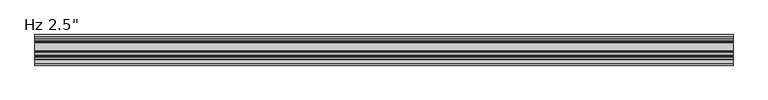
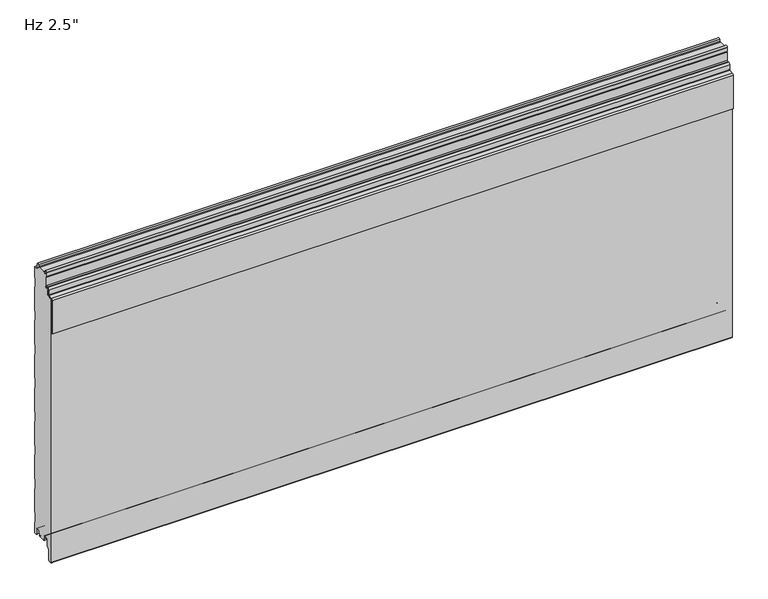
"""IFC4 building model written with IfcOpenShell, lengths in millimetres: plate geometry."""

from ifc_helpers import new_model, si_unit, frame, origin, place, context, project, spatial, polyline, circle_curve, source, transform, mapped, element, save
from ifc_brep_helpers import plane_surface, cylinder_surface, revolved_surface, advanced_brep


def plate_de5ff71d(model_context):
    return source(origin(), model_context, "Body", "AdvancedBrep", [
        advanced_brep(
        [(730.0, -42.4008679, 583.4464086), (730.0, -42.4008679, 602.1916086), (730.0, -43.9248679, 602.1916086), (730.0, -43.9248679, 583.4464086), (730.0, -45.4488679, 581.9224086), (730.0, -48.5476679, 581.9224086), (730.0, -52.0020679, 578.4680086), (730.0, -52.0020679, 567.2554512), (730.0, -52.6976552, 566.4963509), (730.0, -62.2416507, 565.3015233), (730.0, -65.024, 562.2651218), (730.0, -65.0360323, 486.6978086), (730.0, -63.5, 486.6978086), (730.0, -63.5, 562.2651218), (730.0, -62.1088254, 563.7833225), (730.0, -52.5648299, 564.9781501), (730.0, -50.4780679, 567.2554512), (730.0, -50.4780679, 578.4680086), (730.0, -48.5476679, 580.3984086), (730.0, -45.4488679, 580.3984086), (-730.0, -42.4008679, 583.4464086), (-730.0, -45.4488679, 580.3984086), (-730.0, -48.5476679, 580.3984086), (-730.0, -50.4780679, 578.4680086), (-730.0, -50.4780679, 567.2554512), (-730.0, -52.5648299, 564.9781501), (-730.0, -62.1088254, 563.7833225), (-730.0, -63.5, 562.2651218), (-730.0, -63.5, 486.6978086), (-730.0, -65.0360323, 486.6978086), (-730.0, -65.0360323, 562.2651218), (-730.0, -62.2416507, 565.3015233), (-730.0, -52.6976552, 566.4963509), (-730.0, -52.0020679, 567.2554512), (-730.0, -52.0020679, 578.4680086), (-730.0, -48.5476679, 581.9224086), (-730.0, -45.4488679, 581.9224086), (-730.0, -43.9248679, 583.4464086), (-730.0, -43.9248679, 602.1916086), (-730.0, -42.4008679, 602.1916086)],
        [
            (0, 1),
            (1, 2),
            (2, 3),
            (3, 4, circle_curve(frame((730.0, -45.4488679, 583.4464086), z_axis=(-1.0, 0.0, 0.0), x_axis=(0.0, 1.0, 0.0)), 1.524)),
            (4, 5),
            (5, 6, circle_curve(frame((730.0, -48.5476679, 578.4680086), z_axis=(1.0, 0.0, 0.0), x_axis=(0.0, 1.0, 0.0)), 3.4544)),
            (6, 7),
            (7, 8, circle_curve(frame((730.0, -52.7640679, 567.2554512), z_axis=(-1.0, 0.0, 0.0), x_axis=(0.0, 1.0, 0.0)), 0.762)),
            (8, 9),
            (9, 10, circle_curve(frame((730.0, -61.976, 562.2651218), z_axis=(1.0, 0.0, 0.0), x_axis=(0.0, 1.0, 0.0)), 3.048)),
            (10, 11),
            (11, 12),
            (12, 13),
            (13, 14, circle_curve(frame((730.0, -61.976, 562.2651218), z_axis=(-1.0, 0.0, 0.0), x_axis=(0.0, 1.0, 0.0)), 1.524)),
            (14, 15),
            (15, 16, circle_curve(frame((730.0, -52.7640679, 567.2554512), z_axis=(1.0, 0.0, 0.0), x_axis=(0.0, 1.0, 0.0)), 2.286)),
            (16, 17),
            (17, 18, circle_curve(frame((730.0, -48.5476679, 578.4680086), z_axis=(-1.0, 0.0, 0.0), x_axis=(0.0, 1.0, 0.0)), 1.9304)),
            (18, 19),
            (19, 0, circle_curve(frame((730.0, -45.4488679, 583.4464086), z_axis=(1.0, 0.0, 0.0), x_axis=(0.0, 1.0, 0.0)), 3.048)),
            (20, 21, circle_curve(frame((-730.0, -45.4488679, 583.4464086), z_axis=(-1.0, 0.0, 0.0), x_axis=(0.0, 1.0, 0.0)), 3.048)),
            (21, 22),
            (22, 23, circle_curve(frame((-730.0, -48.5476679, 578.4680086), z_axis=(1.0, 0.0, 0.0), x_axis=(0.0, 1.0, 0.0)), 1.9304)),
            (23, 24),
            (24, 25, circle_curve(frame((-730.0, -52.7640679, 567.2554512), z_axis=(-1.0, 0.0, 0.0), x_axis=(0.0, 1.0, 0.0)), 2.286)),
            (25, 26),
            (26, 27, circle_curve(frame((-730.0, -61.976, 562.2651218), z_axis=(1.0, 0.0, 0.0), x_axis=(0.0, 1.0, 0.0)), 1.524)),
            (27, 28),
            (28, 29),
            (29, 30),
            (30, 31, circle_curve(frame((-730.0, -61.976, 562.2651218), z_axis=(-1.0, 0.0, 0.0), x_axis=(0.0, 1.0, 0.0)), 3.048)),
            (31, 32),
            (32, 33, circle_curve(frame((-730.0, -52.7640679, 567.2554512), z_axis=(1.0, 0.0, 0.0), x_axis=(0.0, 1.0, 0.0)), 0.762)),
            (33, 34),
            (34, 35, circle_curve(frame((-730.0, -48.5476679, 578.4680086), z_axis=(-1.0, 0.0, 0.0), x_axis=(0.0, 1.0, 0.0)), 3.4544)),
            (35, 36),
            (36, 37, circle_curve(frame((-730.0, -45.4488679, 583.4464086), z_axis=(1.0, 0.0, 0.0), x_axis=(0.0, 1.0, 0.0)), 1.524)),
            (37, 38),
            (38, 39),
            (39, 20),
            (2, 38),
            (37, 3),
            (15, 25),
            (24, 16),
            (7, 33),
            (32, 8),
            (5, 35),
            (34, 6),
            (1, 39),
            (36, 4),
            (9, 31),
            (30, 10),
            (13, 27),
            (26, 14),
            (0, 20),
            (12, 28),
            (29, 11),
            (23, 17),
            (18, 22),
            (21, 19),
        ],
        [
            plane_surface(frame((730.0, -63.5, 602.1916086), z_axis=(1.0, 0.0, 0.0), x_axis=(0.0, 0.0, -1.0))),
            plane_surface(frame((-730.0, -63.5, 602.1916086), z_axis=(-1.0, 0.0, 0.0), x_axis=(0.0, 0.0, -1.0))),
            plane_surface(frame((730.0, -43.9248679, 583.4464086), z_axis=(0.0, -1.0, 0.0), x_axis=(-1.0, 0.0, 0.0))),
            cylinder_surface(frame((730.0, -52.7640679, 567.2554512), z_axis=(1.0, 0.0, 0.0), x_axis=(0.0, 1.0, 0.0)), 2.286),
            revolved_surface(polyline([(-730.0, -52.0020679, 567.2554512), (730.0, -52.0020679, 567.2554512)]), (730.0, -52.7640679, 567.2554512), (-1.0, 0.0, 0.0)),
            cylinder_surface(frame((730.0, -48.5476679, 578.4680086), z_axis=(1.0, 0.0, 0.0), x_axis=(0.0, 1.0, 0.0)), 3.4544),
            plane_surface(frame((730.0, -43.9248679, 602.1916086), z_axis=(0.0, 0.0, 1.0), x_axis=(-1.0, 0.0, 0.0))),
            revolved_surface(polyline([(-730.0, -43.9248679, 583.4464086), (730.0, -43.9248679, 583.4464086)]), (730.0, -45.4488679, 583.4464086), (-1.0, 0.0, 0.0)),
            cylinder_surface(frame((730.0, -61.976, 562.2651218), z_axis=(1.0, 0.0, 0.0), x_axis=(0.0, 1.0, 0.0)), 3.048),
            revolved_surface(polyline([(-730.0, -60.452, 562.2651218), (730.0, -60.452, 562.2651218)]), (730.0, -61.976, 562.2651218), (-1.0, 0.0, 0.0)),
            plane_surface(frame((730.0, -42.4008679, 602.1916086), z_axis=(0.0, 1.0, 0.0), x_axis=(-1.0, 0.0, 0.0))),
            plane_surface(frame((730.0, -52.5648299, 564.9781501), z_axis=(0.0, 0.12422187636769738, -0.9922544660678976), x_axis=(-1.0, 0.0, 0.0))),
            plane_surface(frame((730.0, -63.5, 562.2651218), z_axis=(0.0, 1.0, 0.0), x_axis=(-1.0, 0.0, 0.0))),
            plane_surface(frame((730.0, -62.2416507, 565.3015233), z_axis=(0.0, -0.12422187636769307, 0.9922544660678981), x_axis=(-1.0, 0.0, 0.0))),
            plane_surface(frame((730.0, -48.5476679, 581.9224086), z_axis=(0.0, 0.0, 1.0), x_axis=(-1.0, 0.0, 0.0))),
            plane_surface(frame((730.0, -65.0360323, 486.6978086), z_axis=(0.0, -1.0, 0.0), x_axis=(-1.0, 0.0, 0.0))),
            plane_surface(frame((730.0, -63.5, 486.6978086), z_axis=(0.0, 0.0, -1.0), x_axis=(-1.0, 0.0, 0.0))),
            plane_surface(frame((730.0, -50.4780679, 578.4680086), z_axis=(0.0, 1.0, 0.0), x_axis=(-1.0, 0.0, 0.0))),
            plane_surface(frame((730.0, -45.4488679, 580.3984086), z_axis=(0.0, 0.0, -1.0), x_axis=(-1.0, 0.0, 0.0))),
            plane_surface(frame((730.0, -52.0020679, 567.2554512), z_axis=(0.0, -1.0, 0.0), x_axis=(-1.0, 0.0, 0.0))),
            revolved_surface(polyline([(-730.0, -46.6172679, 578.4680086), (730.0, -46.6172679, 578.4680086)]), (730.0, -48.5476679, 578.4680086), (-1.0, 0.0, 0.0)),
            cylinder_surface(frame((730.0, -45.4488679, 583.4464086), z_axis=(1.0, 0.0, 0.0), x_axis=(0.0, 1.0, 0.0)), 3.048),
        ],
        [
            (0, [[1, 2, 3, 4, 5, 6, 7, 8, 9, 10, 11, 12, 13, 14, 15, 16, 17, 18, 19, 20]]),
            (1, [[21, 22, 23, 24, 25, 26, 27, 28, 29, 30, 31, 32, 33, 34, 35, 36, 37, 38, 39, 40]]),
            (2, [[41, -38, 42, -3]]),
            (3, [[43, -25, 44, -16]]),
            (4, [[45, -33, 46, -8]]),
            (5, [[47, -35, 48, -6]]),
            (6, [[49, -39, -41, -2]]),
            (7, [[-42, -37, 50, -4]]),
            (8, [[51, -31, 52, -10]]),
            (9, [[53, -27, 54, -14]]),
            (10, [[55, -40, -49, -1]]),
            (11, [[-54, -26, -43, -15]]),
            (12, [[56, -28, -53, -13]]),
            (13, [[-46, -32, -51, -9]]),
            (14, [[-50, -36, -47, -5]]),
            (15, [[-52, -30, 57, -11]]),
            (16, [[-57, -29, -56, -12]]),
            (17, [[-44, -24, 58, -17]]),
            (18, [[59, -22, 60, -19]]),
            (19, [[-48, -34, -45, -7]]),
            (20, [[-58, -23, -59, -18]]),
            (21, [[-60, -21, -55, -20]]),
        ],
    ),
        advanced_brep(
        [(-730.0, -35.170875, 1.0316999), (-730.0, -34.0014003, 2.2328239), (-730.0, -34.0014003, 5.9912173), (-730.0, -35.3998791, 5.9912173), (-730.0, -35.3998791, 8.6903283), (-730.0, -38.7498744, 12.0403236), (-730.0, -43.1498656, 12.0403236), (-730.0, -46.4998609, 8.6903283), (-730.0, -46.4998609, -3.1205608), (-730.0, -46.9977778, -4.3226385), (-730.0, -52.4998489, -9.8247096), (-730.0, -52.4998489, -31.9198392), (-730.0, -54.7184509, -34.5765709), (-730.0, -59.7002718, -35.0125699), (-730.0, -62.4945967, -32.4521176), (-730.0, -62.5, 561.115622), (-730.0, -60.7149259, 563.0669057), (-730.0, -52.2539491, 563.821161), (-730.0, -49.4906462, 566.9653654), (-730.0, -49.4906462, 577.0583308), (-730.0, -48.5392375, 578.0097394), (-730.0, -45.3955822, 578.0097394), (-730.0, -41.3961292, 582.0091924), (-730.0, -41.3961292, 603.1895515), (-730.0, -43.376977, 604.3334028), (-730.0, -43.0217167, 613.306811), (-730.0, -38.8211391, 613.3037148), (-730.0, -38.5767242, 609.2977997), (-730.0, -36.7819116, 607.5686884), (-730.0, -33.997365, 607.5686884), (-730.0, -33.997365, 608.5686884), (-730.0, -35.584865, 608.5686884), (-730.0, -34.5535534, 609.6), (-730.0, -18.6184525, 609.6), (-730.0, -17.5871409, 608.5686884), (-730.0, -19.0015288, 608.5686884), (-730.0, -19.0015288, 607.5686884), (-730.0, -16.6743462, 607.5686884), (-730.0, -14.9256429, 609.2513685), (-730.0, -14.7059822, 613.3921924), (-730.0, -10.4046442, 613.3931719), (-730.0, -9.9974365, 604.9016499), (-730.0, -6.0026007, 601.0787013), (-730.0, -1.0, 601.0787013), (-730.0, -1.0, 576.5794011), (-730.0, -2.2002307, 575.1937682), (-730.0, -2.2002307, 555.8186019), (-730.0, -1.0, 554.4329689), (-730.0, -1.0, 500.3795535), (-730.0, -2.2002307, 498.9939206), (-730.0, -2.2002307, 479.6187543), (-730.0, -1.0, 478.2331213), (-730.0, -1.0, 424.1797059), (-730.0, -2.2002307, 422.794073), (-730.0, -2.2002307, 403.4189067), (-730.0, -1.0, 402.0332737), (-730.0, -1.0, 347.9798583), (-730.0, -2.2002307, 346.5942254), (-730.0, -2.2002307, 327.2190591), (-730.0, -1.0, 325.8334261), (-730.0, -1.0, 271.7800107), (-730.0, -2.2002307, 270.3943778), (-730.0, -2.2002307, 251.0192115), (-730.0, -1.0, 249.6335785), (-730.0, -1.0, 195.5801631), (-730.0, -2.2002307, 194.1945302), (-730.0, -2.2002307, 174.8193639), (-730.0, -1.0, 173.4337309), (-730.0, -1.0, 119.3803155), (-730.0, -2.2002307, 117.9946826), (-730.0, -2.2002307, 98.6195163), (-730.0, -1.0, 97.2338833), (-730.0, -1.0, 43.1804679), (-730.0, -2.2002307, 41.794835), (-730.0, -2.2002307, 22.4196687), (-730.0, -0.9999916, 21.034026), (-730.0, -0.9999916, -3.4662506), (-730.0, -5.2315389, -3.4662506), (-730.0, -7.0015331, -1.6962564), (-730.0, -7.0015331, 8.7237222), (-730.0, -10.301529, 12.023718), (-730.0, -14.7015202, 12.023718), (-730.0, -18.0015159, 8.7237223), (-730.0, -18.0015159, 6.0315125), (-730.0, -19.0015105, 6.0315125), (-730.0, -19.0015105, 2.0313089), (-730.0, -18.0015192, 1.0313117), (-730.0, -19.0328308, 0.0), (-730.0, -34.1391751, 0.0), (730.0, -35.170875, 1.0316999), (730.0, -34.1391751, 0.0), (730.0, -19.0328308, 0.0), (730.0, -18.0015192, 1.0313117), (730.0, -19.0015105, 2.0313089), (730.0, -19.0015105, 6.0315125), (730.0, -18.0015159, 6.0315125), (730.0, -18.0015159, 8.7237223), (730.0, -14.7015202, 12.023718), (730.0, -10.301529, 12.023718), (730.0, -7.0015331, 8.7237222), (730.0, -7.0015331, -1.6962564), (730.0, -5.2315389, -3.4662506), (730.0, -0.9999916, -3.4662506), (730.0, -0.9999916, 21.034026), (730.0, -2.2002307, 22.4196687), (730.0, -2.2002307, 41.794835), (730.0, -1.0, 43.1804679), (730.0, -1.0, 97.2338833), (730.0, -2.2002307, 98.6195163), (730.0, -2.2002307, 117.9946826), (730.0, -1.0, 119.3803155), (730.0, -1.0, 173.4337309), (730.0, -2.2002307, 174.8193639), (730.0, -2.2002307, 194.1945302), (730.0, -1.0, 195.5801631), (730.0, -1.0, 249.6335785), (730.0, -2.2002307, 251.0192115), (730.0, -2.2002307, 270.3943778), (730.0, -1.0, 271.7800107), (730.0, -1.0, 325.8334261), (730.0, -2.2002307, 327.2190591), (730.0, -2.2002307, 346.5942254), (730.0, -1.0, 347.9798583), (730.0, -1.0, 402.0332737), (730.0, -2.2002307, 403.4189067), (730.0, -2.2002307, 422.794073), (730.0, -1.0, 424.1797059), (730.0, -1.0, 478.2331213), (730.0, -2.2002307, 479.6187543), (730.0, -2.2002307, 498.9939206), (730.0, -1.0, 500.3795535), (730.0, -1.0, 554.4329689), (730.0, -2.2002307, 555.8186019), (730.0, -2.2002307, 575.1937682), (730.0, -1.0, 576.5794011), (730.0, -1.0, 601.0787013), (730.0, -6.0026007, 601.0787013), (730.0, -9.9974365, 604.9016499), (730.0, -10.4046442, 613.3931719), (730.0, -14.7059822, 613.3921924), (730.0, -14.9256429, 609.2513685), (730.0, -16.6743462, 607.5686884), (730.0, -19.0015288, 607.5686884), (730.0, -19.0015288, 608.5686884), (730.0, -17.5871409, 608.5686884), (730.0, -18.6184525, 609.6), (730.0, -34.5535534, 609.6), (730.0, -35.584865, 608.5686884), (730.0, -33.997365, 608.5686884), (730.0, -33.997365, 607.5686884), (730.0, -36.7819116, 607.5686884), (730.0, -38.5767242, 609.2977997), (730.0, -38.8211391, 613.3037148), (730.0, -43.0217167, 613.306811), (730.0, -43.376977, 604.3334028), (730.0, -41.3961292, 603.1895515), (730.0, -41.3961292, 582.0091924), (730.0, -45.3955822, 578.0097394), (730.0, -48.5392375, 578.0097394), (730.0, -49.4906462, 577.0583308), (730.0, -49.4906462, 566.9653654), (730.0, -52.2539491, 563.821161), (730.0, -60.7149259, 563.0669057), (730.0, -62.5, 561.115622), (730.0, -62.5, -32.4521176), (730.0, -59.7002718, -35.0125699), (730.0, -54.7184509, -34.5765709), (730.0, -52.4998489, -31.9198392), (730.0, -52.4998489, -9.8247096), (730.0, -46.9977778, -4.3226385), (730.0, -46.4998609, -3.1205608), (730.0, -46.4998609, 8.6903283), (730.0, -43.1498656, 12.0403236), (730.0, -38.7498744, 12.0403236), (730.0, -35.3998791, 8.6903283), (730.0, -35.3998791, 5.9912173), (730.0, -34.0014003, 5.9912173), (730.0, -34.0014003, 2.2328239)],
        [
            (0, 1, circle_curve(frame((-730.0, -35.2013969, 2.2313092), z_axis=(1.0, 0.0, 0.0), x_axis=(0.0, 0.0, -1.0)), 1.1999976)),
            (1, 2),
            (2, 3),
            (3, 4),
            (4, 5, circle_curve(frame((-730.0, -38.7498744, 8.6903283), z_axis=(1.0, 0.0, 0.0), x_axis=(0.0, 0.0, -1.0)), 3.3499953)),
            (5, 6),
            (6, 7, circle_curve(frame((-730.0, -43.1498656, 8.6903283), z_axis=(1.0, 0.0, 0.0), x_axis=(0.0, 0.0, -1.0)), 3.3499953)),
            (7, 8),
            (8, 9, circle_curve(frame((-730.0, -48.1998555, -3.1205608), z_axis=(-1.0, 0.0, 0.0), x_axis=(0.0, 0.0, -1.0)), 1.6999946)),
            (9, 10),
            (10, 11),
            (11, 12, circle_curve(frame((-730.0, -55.1998415, -31.9198392), z_axis=(-1.0, 0.0, 0.0), x_axis=(0.0, 0.0, -1.0)), 2.6999926)),
            (12, 13),
            (13, 14, circle_curve(frame((-730.0, -59.9243575, -32.4521176), z_axis=(-1.0, 0.0, 0.0), x_axis=(0.0, 0.0, -1.0)), 2.5702393)),
            (14, 15),
            (15, 16, circle_curve(frame((-730.0, -60.5409784, 561.115622), z_axis=(-1.0, 0.0, 0.0), x_axis=(0.0, 0.0, -1.0)), 1.9590216)),
            (16, 17),
            (17, 18, circle_curve(frame((-730.0, -52.5180321, 566.8396267), z_axis=(1.0, 0.0, 0.0), x_axis=(0.0, 0.0, -1.0)), 3.0299959)),
            (18, 19),
            (19, 20, circle_curve(frame((-730.0, -48.5392375, 577.0583308), z_axis=(-1.0, 0.0, 0.0), x_axis=(0.0, 0.0, -1.0)), 0.9514087)),
            (20, 21),
            (21, 22, circle_curve(frame((-730.0, -45.3955822, 582.0091924), z_axis=(1.0, 0.0, 0.0), x_axis=(0.0, 0.0, -1.0)), 3.9994529)),
            (22, 23),
            (23, 24),
            (24, 25),
            (25, 26, circle_curve(frame((-730.0, -40.921488, 613.2236622), z_axis=(-1.0, 0.0, 0.0), x_axis=(0.0, 0.0, -1.0)), 2.1018739)),
            (26, 27),
            (27, 28, circle_curve(frame((-730.0, -36.7383506, 609.4099653), z_axis=(1.0, 0.0, 0.0), x_axis=(0.0, 0.0, -1.0)), 1.8417922)),
            (28, 29),
            (29, 30),
            (30, 31),
            (31, 32),
            (32, 33),
            (33, 34),
            (34, 35),
            (35, 36),
            (36, 37),
            (37, 38, circle_curve(frame((-730.0, -16.6743462, 609.3186869), z_axis=(1.0, 0.0, 0.0), x_axis=(0.0, 0.0, 1.0)), 1.7499985)),
            (38, 39),
            (39, 40, circle_curve(frame((-730.0, -12.5552871, 613.2781032), z_axis=(-1.0, 0.0, 0.0), x_axis=(0.0, 0.0, 1.0)), 2.153719)),
            (40, 41),
            (41, 42, circle_curve(frame((-730.0, -5.9867338, 605.0939817), z_axis=(1.0, 0.0, 0.0), x_axis=(0.0, 0.0, 1.0)), 4.0153117)),
            (42, 43),
            (43, 44),
            (44, 45),
            (45, 46),
            (46, 47),
            (47, 48),
            (48, 49),
            (49, 50),
            (50, 51),
            (51, 52),
            (52, 53),
            (53, 54),
            (54, 55),
            (55, 56),
            (56, 57),
            (57, 58),
            (58, 59),
            (59, 60),
            (60, 61),
            (61, 62),
            (62, 63),
            (63, 64),
            (64, 65),
            (65, 66),
            (66, 67),
            (67, 68),
            (68, 69),
            (69, 70),
            (70, 71),
            (71, 72),
            (72, 73),
            (73, 74),
            (74, 75),
            (75, 76),
            (76, 77),
            (77, 78, circle_curve(frame((-730.0, -5.2315389, -1.6962564), z_axis=(-1.0, 0.0, 0.0), x_axis=(0.0, 0.0, 1.0)), 1.7699942)),
            (78, 79),
            (79, 80, circle_curve(frame((-730.0, -10.301529, 8.7237222), z_axis=(1.0, 0.0, 0.0), x_axis=(0.0, 0.0, 1.0)), 3.2999959)),
            (80, 81),
            (81, 82, circle_curve(frame((-730.0, -14.7015202, 8.7237223), z_axis=(1.0, 0.0, 0.0), x_axis=(0.0, 0.0, 1.0)), 3.2999957)),
            (82, 83),
            (83, 84),
            (84, 85),
            (85, 86, circle_curve(frame((-730.0, -18.0015133, 2.0313089), z_axis=(1.0, 0.0, 0.0), x_axis=(0.0, 0.0, 1.0)), 0.9999972)),
            (86, 87),
            (87, 88),
            (88, 0),
            (89, 90),
            (90, 91),
            (91, 92),
            (92, 93, circle_curve(frame((730.0, -18.0015133, 2.0313089), z_axis=(-1.0, 0.0, 0.0), x_axis=(0.0, 0.0, 1.0)), 0.9999972)),
            (93, 94),
            (94, 95),
            (95, 96),
            (96, 97, circle_curve(frame((730.0, -14.7015202, 8.7237223), z_axis=(-1.0, 0.0, 0.0), x_axis=(0.0, 0.0, 1.0)), 3.2999957)),
            (97, 98),
            (98, 99, circle_curve(frame((730.0, -10.301529, 8.7237222), z_axis=(-1.0, 0.0, 0.0), x_axis=(0.0, 0.0, 1.0)), 3.2999959)),
            (99, 100),
            (100, 101, circle_curve(frame((730.0, -5.2315389, -1.6962564), z_axis=(1.0, 0.0, 0.0), x_axis=(0.0, 0.0, 1.0)), 1.7699942)),
            (101, 102),
            (102, 103),
            (103, 104),
            (104, 105),
            (105, 106),
            (106, 107),
            (107, 108),
            (108, 109),
            (109, 110),
            (110, 111),
            (111, 112),
            (112, 113),
            (113, 114),
            (114, 115),
            (115, 116),
            (116, 117),
            (117, 118),
            (118, 119),
            (119, 120),
            (120, 121),
            (121, 122),
            (122, 123),
            (123, 124),
            (124, 125),
            (125, 126),
            (126, 127),
            (127, 128),
            (128, 129),
            (129, 130),
            (130, 131),
            (131, 132),
            (132, 133),
            (133, 134),
            (134, 135),
            (135, 136),
            (136, 137, circle_curve(frame((730.0, -5.9867338, 605.0939817), z_axis=(-1.0, 0.0, 0.0), x_axis=(0.0, 0.0, 1.0)), 4.0153117)),
            (137, 138),
            (138, 139, circle_curve(frame((730.0, -12.5552871, 613.2781032), z_axis=(1.0, 0.0, 0.0), x_axis=(0.0, 0.0, 1.0)), 2.153719)),
            (139, 140),
            (140, 141, circle_curve(frame((730.0, -16.6743462, 609.3186869), z_axis=(-1.0, 0.0, 0.0), x_axis=(0.0, 0.0, 1.0)), 1.7499985)),
            (141, 142),
            (142, 143),
            (143, 144),
            (144, 145),
            (145, 146),
            (146, 147),
            (147, 148),
            (148, 149),
            (149, 150),
            (150, 151, circle_curve(frame((730.0, -36.7383506, 609.4099653), z_axis=(-1.0, 0.0, 0.0), x_axis=(0.0, 0.0, -1.0)), 1.8417922)),
            (151, 152),
            (152, 153, circle_curve(frame((730.0, -40.921488, 613.2236622), z_axis=(1.0, 0.0, 0.0), x_axis=(0.0, 0.0, -1.0)), 2.1018739)),
            (153, 154),
            (154, 155),
            (155, 156),
            (156, 157, circle_curve(frame((730.0, -45.3955822, 582.0091924), z_axis=(-1.0, 0.0, 0.0), x_axis=(0.0, 0.0, -1.0)), 3.9994529)),
            (157, 158),
            (158, 159, circle_curve(frame((730.0, -48.5392375, 577.0583308), z_axis=(1.0, 0.0, 0.0), x_axis=(0.0, 0.0, -1.0)), 0.9514087)),
            (159, 160),
            (160, 161, circle_curve(frame((730.0, -52.5180321, 566.8396267), z_axis=(-1.0, 0.0, 0.0), x_axis=(0.0, 0.0, -1.0)), 3.0299959)),
            (161, 162),
            (162, 163, circle_curve(frame((730.0, -60.5409784, 561.115622), z_axis=(1.0, 0.0, 0.0), x_axis=(0.0, 0.0, -1.0)), 1.9590216)),
            (163, 164),
            (164, 165, circle_curve(frame((730.0, -59.9243575, -32.4521176), z_axis=(1.0, 0.0, 0.0), x_axis=(0.0, 0.0, -1.0)), 2.5702393)),
            (165, 166),
            (166, 167, circle_curve(frame((730.0, -55.1998415, -31.9198392), z_axis=(1.0, 0.0, 0.0), x_axis=(0.0, 0.0, -1.0)), 2.6999926)),
            (167, 168),
            (168, 169),
            (169, 170, circle_curve(frame((730.0, -48.1998555, -3.1205608), z_axis=(1.0, 0.0, 0.0), x_axis=(0.0, 0.0, -1.0)), 1.6999946)),
            (170, 171),
            (171, 172, circle_curve(frame((730.0, -43.1498656, 8.6903283), z_axis=(-1.0, 0.0, 0.0), x_axis=(0.0, 0.0, -1.0)), 3.3499953)),
            (172, 173),
            (173, 174, circle_curve(frame((730.0, -38.7498744, 8.6903283), z_axis=(-1.0, 0.0, 0.0), x_axis=(0.0, 0.0, -1.0)), 3.3499953)),
            (174, 175),
            (175, 176),
            (176, 177),
            (177, 89, circle_curve(frame((730.0, -35.2013969, 2.2313092), z_axis=(-1.0, 0.0, 0.0), x_axis=(0.0, 0.0, -1.0)), 1.1999976)),
            (88, 90),
            (89, 0),
            (87, 91),
            (32, 146),
            (145, 33),
            (31, 147),
            (30, 148),
            (29, 149),
            (28, 150),
            (27, 151),
            (26, 152),
            (25, 153),
            (24, 154),
            (23, 155),
            (22, 156),
            (21, 157),
            (20, 158),
            (19, 159),
            (18, 160),
            (17, 161),
            (16, 162),
            (15, 163),
            (14, 164),
            (13, 165),
            (12, 166),
            (11, 167),
            (10, 168),
            (9, 169),
            (8, 170),
            (7, 171),
            (6, 172),
            (5, 173),
            (4, 174),
            (3, 175),
            (2, 176),
            (1, 177),
            (86, 92),
            (85, 93),
            (84, 94),
            (83, 95),
            (82, 96),
            (81, 97),
            (80, 98),
            (79, 99),
            (78, 100),
            (77, 101),
            (76, 102),
            (41, 137),
            (136, 42),
            (40, 138),
            (39, 139),
            (38, 140),
            (37, 141),
            (36, 142),
            (35, 143),
            (34, 144),
            (74, 104),
            (103, 75),
            (73, 105),
            (72, 106),
            (71, 107),
            (70, 108),
            (69, 109),
            (68, 110),
            (67, 111),
            (66, 112),
            (65, 113),
            (64, 114),
            (63, 115),
            (62, 116),
            (61, 117),
            (60, 118),
            (59, 119),
            (58, 120),
            (57, 121),
            (56, 122),
            (55, 123),
            (54, 124),
            (53, 125),
            (52, 126),
            (51, 127),
            (50, 128),
            (49, 129),
            (48, 130),
            (47, 131),
            (46, 132),
            (45, 133),
            (44, 134),
            (43, 135),
        ],
        [
            plane_surface(frame((-730.0, -62.5, 304.8), z_axis=(-1.0, 0.0, 0.0), x_axis=(0.0, -1.0, 0.0))),
            plane_surface(frame((730.0, -62.5, 304.8), z_axis=(1.0, 0.0, 0.0), x_axis=(0.0, -1.0, 0.0))),
            plane_surface(frame((-730.0, -35.170875, 1.0316999), z_axis=(0.0, -0.7071067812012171, -0.707106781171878), x_axis=(1.0, 0.0, 0.0))),
            plane_surface(frame((-730.0, -34.1391751, 0.0), z_axis=(0.0, 0.0, -1.0), x_axis=(1.0, 0.0, 0.0))),
            plane_surface(frame((-730.0, -33.1391751, 609.6), z_axis=(0.0, 0.0, 1.0), x_axis=(1.0, 0.0, 0.0))),
            plane_surface(frame((-730.0, -34.5535534, 609.6), z_axis=(0.0, -0.7071067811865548, 0.7071067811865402), x_axis=(1.0, 0.0, 0.0))),
            plane_surface(frame((-730.0, -35.584865, 608.5686884), z_axis=(0.0, 0.0, -1.0), x_axis=(1.0, 0.0, 0.0))),
            plane_surface(frame((-730.0, -33.997365, 608.5686884), z_axis=(0.0, -1.0, 0.0), x_axis=(1.0, 0.0, 0.0))),
            plane_surface(frame((-730.0, -33.997365, 607.5686884), z_axis=(0.0, 0.0, 1.0), x_axis=(1.0, 0.0, 0.0))),
            revolved_surface(polyline([(730.0, -36.7383506, 607.5681731), (-730.0, -36.7383506, 607.5681731)]), (-730.0, -36.7383506, 609.4099653), (1.0, 0.0, 0.0)),
            plane_surface(frame((-730.0, -38.5767242, 609.2977997), z_axis=(0.0, 0.9981438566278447, 0.06090025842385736), x_axis=(1.0, 0.0, 0.0))),
            cylinder_surface(frame((-730.0, -40.921488, 613.2236622), z_axis=(-1.0, 0.0, 0.0), x_axis=(0.0, 0.0, -1.0)), 2.1018739),
            plane_surface(frame((-730.0, -43.0217167, 613.306811), z_axis=(0.0, -0.9992172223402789, 0.03955935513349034), x_axis=(1.0, 0.0, 0.0))),
            plane_surface(frame((-730.0, -43.376977, 604.3334028), z_axis=(0.0, -0.5000682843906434, -0.865985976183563), x_axis=(1.0, 0.0, 0.0))),
            plane_surface(frame((-730.0, -41.3961292, 603.1895515), z_axis=(0.0, -1.0, 0.0), x_axis=(1.0, 0.0, 0.0))),
            revolved_surface(polyline([(730.0, -45.3955822, 578.0097394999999), (-730.0, -45.3955822, 578.0097394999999)]), (-730.0, -45.3955822, 582.0091924), (1.0, 0.0, 0.0)),
            plane_surface(frame((-730.0, -45.3955822, 578.0097394), z_axis=(0.0, 0.0, 1.0), x_axis=(1.0, 0.0, 0.0))),
            cylinder_surface(frame((-730.0, -48.5392375, 577.0583308), z_axis=(-1.0, 0.0, 0.0), x_axis=(0.0, 0.0, -1.0)), 0.9514087),
            plane_surface(frame((-730.0, -49.4906462, 577.0583308), z_axis=(0.0, -1.0, 0.0), x_axis=(1.0, 0.0, 0.0))),
            revolved_surface(polyline([(730.0, -52.5180321, 563.8096308), (-730.0, -52.5180321, 563.8096308)]), (-730.0, -52.5180321, 566.8396267), (1.0, 0.0, 0.0)),
            plane_surface(frame((-730.0, -52.2539491, 563.821161), z_axis=(0.0, -0.08879306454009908, 0.9960500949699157), x_axis=(1.0, 0.0, 0.0))),
            cylinder_surface(frame((-730.0, -60.5409784, 561.115622), z_axis=(-1.0, 0.0, 0.0), x_axis=(0.0, 0.0, -1.0)), 1.9590216),
            plane_surface(frame((-730.0, -62.5, 561.115622), z_axis=(0.0, -1.0, 0.0), x_axis=(1.0, 0.0, 0.0))),
            cylinder_surface(frame((-730.0, -59.9243575, -32.4521176), z_axis=(-1.0, 0.0, 0.0), x_axis=(0.0, 0.0, -1.0)), 2.5702393),
            plane_surface(frame((-730.0, -59.7002718, -35.0125699), z_axis=(0.0, 0.08718474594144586, -0.9961921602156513), x_axis=(1.0, 0.0, 0.0))),
            cylinder_surface(frame((-730.0, -55.1998415, -31.9198392), z_axis=(-1.0, 0.0, 0.0), x_axis=(0.0, 0.0, -1.0)), 2.6999926),
            plane_surface(frame((-730.0, -52.4998489, -31.9198392), z_axis=(0.0, 1.0, 0.0), x_axis=(1.0, 0.0, 0.0))),
            plane_surface(frame((-730.0, -52.4998489, -9.8247096), z_axis=(0.0, 0.7071067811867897, -0.7071067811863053), x_axis=(1.0, 0.0, 0.0))),
            cylinder_surface(frame((-730.0, -48.1998555, -3.1205608), z_axis=(-1.0, 0.0, 0.0), x_axis=(0.0, 0.0, -1.0)), 1.6999946),
            plane_surface(frame((-730.0, -46.4998609, -3.1205608), z_axis=(0.0, 1.0, 0.0), x_axis=(1.0, 0.0, 0.0))),
            revolved_surface(polyline([(730.0, -43.1498656, 5.340332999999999), (-730.0, -43.1498656, 5.340332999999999)]), (-730.0, -43.1498656, 8.6903283), (1.0, 0.0, 0.0)),
            plane_surface(frame((-730.0, -43.1498656, 12.0403236), z_axis=(0.0, 0.0, -1.0), x_axis=(1.0, 0.0, 0.0))),
            revolved_surface(polyline([(730.0, -38.7498744, 5.340332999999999), (-730.0, -38.7498744, 5.340332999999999)]), (-730.0, -38.7498744, 8.6903283), (1.0, 0.0, 0.0)),
            plane_surface(frame((-730.0, -35.3998791, 8.6903283), z_axis=(0.0, -1.0, 0.0), x_axis=(1.0, 0.0, 0.0))),
            plane_surface(frame((-730.0, -35.3998791, 5.9912173), z_axis=(0.0, 0.0, -1.0), x_axis=(1.0, 0.0, 0.0))),
            plane_surface(frame((-730.0, -34.0014003, 5.9912173), z_axis=(0.0, -1.0, 0.0), x_axis=(1.0, 0.0, 0.0))),
            revolved_surface(polyline([(730.0, -35.2013969, 1.0313116), (-730.0, -35.2013969, 1.0313116)]), (-730.0, -35.2013969, 2.2313092), (1.0, 0.0, 0.0)),
            plane_surface(frame((-730.0, -19.0328308, 0.0), z_axis=(0.0, 0.7071067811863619, -0.7071067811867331), x_axis=(1.0, 0.0, 0.0))),
            revolved_surface(polyline([(730.0, -18.0015133, 3.0313061), (-730.0, -18.0015133, 3.0313061)]), (-730.0, -18.0015133, 2.0313089), (1.0, 0.0, 0.0)),
            plane_surface(frame((-730.0, -19.0015105, 2.0313089), z_axis=(0.0, 1.0, 0.0), x_axis=(1.0, 0.0, 0.0))),
            plane_surface(frame((-730.0, -19.0015105, 6.0315125), z_axis=(0.0, 0.0, -1.0), x_axis=(1.0, 0.0, 0.0))),
            plane_surface(frame((-730.0, -18.0015159, 6.0315125), z_axis=(0.0, 1.0, 0.0), x_axis=(1.0, 0.0, 0.0))),
            revolved_surface(polyline([(730.0, -14.7015202, 12.023718), (-730.0, -14.7015202, 12.023718)]), (-730.0, -14.7015202, 8.7237223), (1.0, 0.0, 0.0)),
            plane_surface(frame((-730.0, -14.7015202, 12.023718), z_axis=(0.0, 0.0, -1.0), x_axis=(1.0, 0.0, 0.0))),
            revolved_surface(polyline([(730.0, -10.301529, 12.0237181), (-730.0, -10.301529, 12.0237181)]), (-730.0, -10.301529, 8.7237222), (1.0, 0.0, 0.0)),
            plane_surface(frame((-730.0, -7.0015331, 8.7237222), z_axis=(0.0, -1.0, 0.0), x_axis=(1.0, 0.0, 0.0))),
            cylinder_surface(frame((-730.0, -5.2315389, -1.6962564), z_axis=(-1.0, 0.0, 0.0), x_axis=(0.0, 0.0, 1.0)), 1.7699942),
            plane_surface(frame((-730.0, -5.2315389, -3.4662506), z_axis=(0.0, 0.0, -1.0), x_axis=(1.0, 0.0, 0.0))),
            revolved_surface(polyline([(730.0, -5.9867338, 609.1092934), (-730.0, -5.9867338, 609.1092934)]), (-730.0, -5.9867338, 605.0939817), (1.0, 0.0, 0.0)),
            plane_surface(frame((-730.0, -9.9974365, 604.9016499), z_axis=(0.0, 0.9988521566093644, 0.04789957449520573), x_axis=(1.0, 0.0, 0.0))),
            cylinder_surface(frame((-730.0, -12.5552871, 613.2781032), z_axis=(-1.0, 0.0, 0.0), x_axis=(0.0, 0.0, 1.0)), 2.153719),
            plane_surface(frame((-730.0, -14.7059822, 613.3921924), z_axis=(0.0, -0.9985959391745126, 0.05297310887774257), x_axis=(1.0, 0.0, 0.0))),
            revolved_surface(polyline([(730.0, -16.6743462, 611.0686853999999), (-730.0, -16.6743462, 611.0686853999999)]), (-730.0, -16.6743462, 609.3186869), (1.0, 0.0, 0.0)),
            plane_surface(frame((-730.0, -16.6743462, 607.5686884), z_axis=(0.0, 0.0, 1.0), x_axis=(1.0, 0.0, 0.0))),
            plane_surface(frame((-730.0, -19.0015288, 607.5686884), z_axis=(0.0, 1.0, 0.0), x_axis=(1.0, 0.0, 0.0))),
            plane_surface(frame((-730.0, -19.0015288, 608.5686884), z_axis=(0.0, 0.0, -1.0), x_axis=(1.0, 0.0, 0.0))),
            plane_surface(frame((-730.0, -17.5871409, 608.5686884), z_axis=(0.0, 0.7071067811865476, 0.7071067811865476), x_axis=(1.0, 0.0, 0.0))),
            plane_surface(frame((-730.0, -0.9999916, 21.034026), z_axis=(0.0, 0.7558648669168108, 0.6547276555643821), x_axis=(1.0, 0.0, 0.0))),
            plane_surface(frame((-730.0, -0.9999916, -3.4662506), z_axis=(0.0, 1.0, 0.0), x_axis=(1.0, 0.0, 0.0))),
            plane_surface(frame((-730.0, -2.2002307, 22.4196687), z_axis=(0.0, 1.0, 0.0), x_axis=(1.0, 0.0, 0.0))),
            plane_surface(frame((-730.0, -2.2002307, 41.794835), z_axis=(0.0, 0.7558648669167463, -0.6547276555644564), x_axis=(1.0, 0.0, 0.0))),
            plane_surface(frame((-730.0, -1.0, 43.1804679), z_axis=(0.0, 1.0, 0.0), x_axis=(1.0, 0.0, 0.0))),
            plane_surface(frame((-730.0, -1.0, 97.2338833), z_axis=(0.0, 0.7558648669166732, 0.6547276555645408), x_axis=(1.0, 0.0, 0.0))),
            plane_surface(frame((-730.0, -2.2002307, 98.6195163), z_axis=(0.0, 1.0, 0.0), x_axis=(1.0, 0.0, 0.0))),
            plane_surface(frame((-730.0, -2.2002307, 117.9946826), z_axis=(0.0, 0.7558648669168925, -0.6547276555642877), x_axis=(1.0, 0.0, 0.0))),
            plane_surface(frame((-730.0, -1.0, 119.3803155), z_axis=(0.0, 1.0, 0.0), x_axis=(1.0, 0.0, 0.0))),
            plane_surface(frame((-730.0, -1.0, 173.4337309), z_axis=(0.0, 0.7558648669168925, 0.6547276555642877), x_axis=(1.0, 0.0, 0.0))),
            plane_surface(frame((-730.0, -2.2002307, 174.8193639), z_axis=(0.0, 1.0, 0.0), x_axis=(1.0, 0.0, 0.0))),
            plane_surface(frame((-730.0, -2.2002307, 194.1945302), z_axis=(0.0, 0.7558648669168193, -0.6547276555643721), x_axis=(1.0, 0.0, 0.0))),
            plane_surface(frame((-730.0, -1.0, 195.5801631), z_axis=(0.0, 1.0, 0.0), x_axis=(1.0, 0.0, 0.0))),
            plane_surface(frame((-730.0, -1.0, 249.6335785), z_axis=(0.0, 0.7558648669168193, 0.6547276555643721), x_axis=(1.0, 0.0, 0.0))),
            plane_surface(frame((-730.0, -2.2002307, 251.0192115), z_axis=(0.0, 1.0, 0.0), x_axis=(1.0, 0.0, 0.0))),
            plane_surface(frame((-730.0, -2.2002307, 270.3943778), z_axis=(0.0, 0.7558648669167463, -0.6547276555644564), x_axis=(1.0, 0.0, 0.0))),
            plane_surface(frame((-730.0, -1.0, 271.7800107), z_axis=(0.0, 1.0, 0.0), x_axis=(1.0, 0.0, 0.0))),
            plane_surface(frame((-730.0, -1.0, 325.8334261), z_axis=(0.0, 0.7558648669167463, 0.6547276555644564), x_axis=(1.0, 0.0, 0.0))),
            plane_surface(frame((-730.0, -2.2002307, 327.2190591), z_axis=(0.0, 1.0, 0.0), x_axis=(1.0, 0.0, 0.0))),
            plane_surface(frame((-730.0, -2.2002307, 346.5942254), z_axis=(0.0, 0.7558648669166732, -0.6547276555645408), x_axis=(1.0, 0.0, 0.0))),
            plane_surface(frame((-730.0, -1.0, 347.9798583), z_axis=(0.0, 1.0, 0.0), x_axis=(1.0, 0.0, 0.0))),
            plane_surface(frame((-730.0, -1.0, 402.0332737), z_axis=(0.0, 0.7558648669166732, 0.6547276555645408), x_axis=(1.0, 0.0, 0.0))),
            plane_surface(frame((-730.0, -2.2002307, 403.4189067), z_axis=(0.0, 1.0, 0.0), x_axis=(1.0, 0.0, 0.0))),
            plane_surface(frame((-730.0, -2.2002307, 422.794073), z_axis=(0.0, 0.755864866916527, -0.6547276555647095), x_axis=(1.0, 0.0, 0.0))),
            plane_surface(frame((-730.0, -1.0, 424.1797059), z_axis=(0.0, 1.0, 0.0), x_axis=(1.0, 0.0, 0.0))),
            plane_surface(frame((-730.0, -1.0, 478.2331213), z_axis=(0.0, 0.755864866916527, 0.6547276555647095), x_axis=(1.0, 0.0, 0.0))),
            plane_surface(frame((-730.0, -2.2002307, 479.6187543), z_axis=(0.0, 1.0, 0.0), x_axis=(1.0, 0.0, 0.0))),
            plane_surface(frame((-730.0, -2.2002307, 498.9939206), z_axis=(0.0, 0.755864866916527, -0.6547276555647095), x_axis=(1.0, 0.0, 0.0))),
            plane_surface(frame((-730.0, -1.0, 500.3795535), z_axis=(0.0, 1.0, 0.0), x_axis=(1.0, 0.0, 0.0))),
            plane_surface(frame((-730.0, -1.0, 554.4329689), z_axis=(0.0, 0.755864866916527, 0.6547276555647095), x_axis=(1.0, 0.0, 0.0))),
            plane_surface(frame((-730.0, -2.2002307, 555.8186019), z_axis=(0.0, 1.0, 0.0), x_axis=(1.0, 0.0, 0.0))),
            plane_surface(frame((-730.0, -2.2002307, 575.1937682), z_axis=(0.0, 0.7558648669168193, -0.6547276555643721), x_axis=(1.0, 0.0, 0.0))),
            plane_surface(frame((-730.0, -1.0, 576.5794011), z_axis=(0.0, 1.0, 0.0), x_axis=(1.0, 0.0, 0.0))),
            plane_surface(frame((-730.0, -1.0, 601.0787013), z_axis=(0.0, 0.0, 1.0), x_axis=(1.0, 0.0, 0.0))),
        ],
        [
            (0, [[1, 2, 3, 4, 5, 6, 7, 8, 9, 10, 11, 12, 13, 14, 15, 16, 17, 18, 19, 20, 21, 22, 23, 24, 25, 26, 27, 28, 29, 30, 31, 32, 33, 34, 35, 36, 37, 38, 39, 40, 41, 42, 43, 44, 45, 46, 47, 48, 49, 50, 51, 52, 53, 54, 55, 56, 57, 58, 59, 60, 61, 62, 63, 64, 65, 66, 67, 68, 69, 70, 71, 72, 73, 74, 75, 76, 77, 78, 79, 80, 81, 82, 83, 84, 85, 86, 87, 88, 89]]),
            (1, [[90, 91, 92, 93, 94, 95, 96, 97, 98, 99, 100, 101, 102, 103, 104, 105, 106, 107, 108, 109, 110, 111, 112, 113, 114, 115, 116, 117, 118, 119, 120, 121, 122, 123, 124, 125, 126, 127, 128, 129, 130, 131, 132, 133, 134, 135, 136, 137, 138, 139, 140, 141, 142, 143, 144, 145, 146, 147, 148, 149, 150, 151, 152, 153, 154, 155, 156, 157, 158, 159, 160, 161, 162, 163, 164, 165, 166, 167, 168, 169, 170, 171, 172, 173, 174, 175, 176, 177, 178]]),
            (2, [[179, -90, 180, -89]]),
            (3, [[181, -91, -179, -88]]),
            (4, [[182, -146, 183, -33]]),
            (5, [[184, -147, -182, -32]]),
            (6, [[185, -148, -184, -31]]),
            (7, [[186, -149, -185, -30]]),
            (8, [[187, -150, -186, -29]]),
            (9, [[188, -151, -187, -28]]),
            (10, [[189, -152, -188, -27]]),
            (11, [[190, -153, -189, -26]]),
            (12, [[191, -154, -190, -25]]),
            (13, [[192, -155, -191, -24]]),
            (14, [[193, -156, -192, -23]]),
            (15, [[194, -157, -193, -22]]),
            (16, [[195, -158, -194, -21]]),
            (17, [[196, -159, -195, -20]]),
            (18, [[197, -160, -196, -19]]),
            (19, [[198, -161, -197, -18]]),
            (20, [[199, -162, -198, -17]]),
            (21, [[200, -163, -199, -16]]),
            (22, [[201, -164, -200, -15]]),
            (23, [[202, -165, -201, -14]]),
            (24, [[203, -166, -202, -13]]),
            (25, [[204, -167, -203, -12]]),
            (26, [[205, -168, -204, -11]]),
            (27, [[206, -169, -205, -10]]),
            (28, [[207, -170, -206, -9]]),
            (29, [[208, -171, -207, -8]]),
            (30, [[209, -172, -208, -7]]),
            (31, [[210, -173, -209, -6]]),
            (32, [[211, -174, -210, -5]]),
            (33, [[212, -175, -211, -4]]),
            (34, [[213, -176, -212, -3]]),
            (35, [[214, -177, -213, -2]]),
            (36, [[-180, -178, -214, -1]]),
            (37, [[215, -92, -181, -87]]),
            (38, [[216, -93, -215, -86]]),
            (39, [[217, -94, -216, -85]]),
            (40, [[218, -95, -217, -84]]),
            (41, [[219, -96, -218, -83]]),
            (42, [[220, -97, -219, -82]]),
            (43, [[221, -98, -220, -81]]),
            (44, [[222, -99, -221, -80]]),
            (45, [[223, -100, -222, -79]]),
            (46, [[224, -101, -223, -78]]),
            (47, [[225, -102, -224, -77]]),
            (48, [[226, -137, 227, -42]]),
            (49, [[228, -138, -226, -41]]),
            (50, [[229, -139, -228, -40]]),
            (51, [[230, -140, -229, -39]]),
            (52, [[231, -141, -230, -38]]),
            (53, [[232, -142, -231, -37]]),
            (54, [[233, -143, -232, -36]]),
            (55, [[234, -144, -233, -35]]),
            (56, [[-183, -145, -234, -34]]),
            (57, [[235, -104, 236, -75]]),
            (58, [[-236, -103, -225, -76]]),
            (59, [[237, -105, -235, -74]]),
            (60, [[238, -106, -237, -73]]),
            (61, [[239, -107, -238, -72]]),
            (62, [[240, -108, -239, -71]]),
            (63, [[241, -109, -240, -70]]),
            (64, [[242, -110, -241, -69]]),
            (65, [[243, -111, -242, -68]]),
            (66, [[244, -112, -243, -67]]),
            (67, [[245, -113, -244, -66]]),
            (68, [[246, -114, -245, -65]]),
            (69, [[247, -115, -246, -64]]),
            (70, [[248, -116, -247, -63]]),
            (71, [[249, -117, -248, -62]]),
            (72, [[250, -118, -249, -61]]),
            (73, [[251, -119, -250, -60]]),
            (74, [[252, -120, -251, -59]]),
            (75, [[253, -121, -252, -58]]),
            (76, [[254, -122, -253, -57]]),
            (77, [[255, -123, -254, -56]]),
            (78, [[256, -124, -255, -55]]),
            (79, [[257, -125, -256, -54]]),
            (80, [[258, -126, -257, -53]]),
            (81, [[259, -127, -258, -52]]),
            (82, [[260, -128, -259, -51]]),
            (83, [[261, -129, -260, -50]]),
            (84, [[262, -130, -261, -49]]),
            (85, [[263, -131, -262, -48]]),
            (86, [[264, -132, -263, -47]]),
            (87, [[265, -133, -264, -46]]),
            (88, [[266, -134, -265, -45]]),
            (89, [[267, -135, -266, -44]]),
            (90, [[-227, -136, -267, -43]]),
        ],
    ),
    ])


if __name__ == "__main__":
    model = new_model("IFC4")
    model_context = context("Model", 3, world=origin())
    ifc_project = project(units=[si_unit("LENGTHUNIT", "METRE", prefix="MILLI")], contexts=[model_context])
    site = spatial("IfcSite", under=ifc_project)
    building = spatial("IfcBuilding", under=site)
    placement = place(None, origin())
    plate_shape = plate_de5ff71d(model_context)
    element("IfcPlate", 1, ObjectType="KIP-24-Karrier-KP-R19-CP-Hz-FL3-8in_SL : Hz 2.5\"", at=placement, inside=building, context=model_context, shape_type="MappedRepresentation", body=[
        mapped(plate_shape, transform((0.0, 0.0, 0.0), x_axis=(1.0, 0.0, 0.0), y_axis=(0.0, 1.0, 0.0), z_axis=(0.0, 0.0, 1.0))),
    ])
    save(model, "model.ifc")
